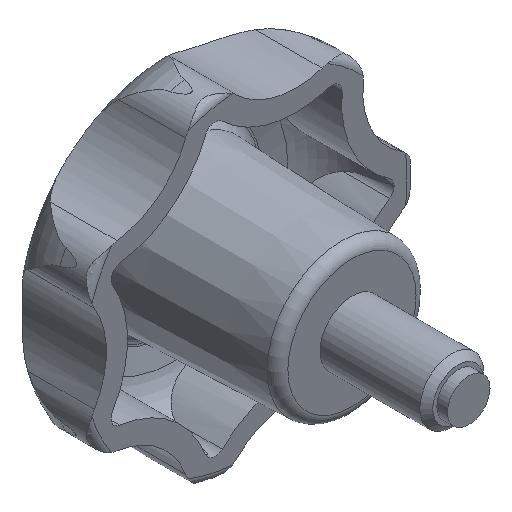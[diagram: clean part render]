
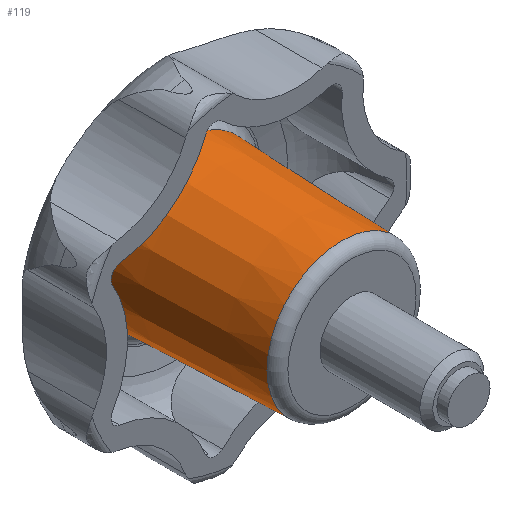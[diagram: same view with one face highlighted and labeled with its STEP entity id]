
A CAD part, isometric view. The second image highlights one B-rep face of the part: STEP entity #119.
In plain terms, the highlighted conical face has half-angle 2 degrees and reference radius 7.567 mm.
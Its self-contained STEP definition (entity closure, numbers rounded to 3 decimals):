
#119 = ADVANCED_FACE( '', ( #234, #235 ), #236, .T. );
#234 = FACE_BOUND( '', #378, .T. );
#235 = FACE_OUTER_BOUND( '', #379, .T. );
#236 = CONICAL_SURFACE( '', #380, 7.567, 0.035 );
#378 = EDGE_LOOP( '', ( #887 ) );
#379 = EDGE_LOOP( '', ( #888 ) );
#380 = AXIS2_PLACEMENT_3D( '', #889, #890, #891 );
#887 = ORIENTED_EDGE( '', *, *, #1169, .F. );
#888 = ORIENTED_EDGE( '', *, *, #1170, .T. );
#889 = CARTESIAN_POINT( '', ( 0., 16.25, 0. ) );
#890 = DIRECTION( '', ( 0., 1., 0. ) );
#891 = DIRECTION( '', ( 0., 0., 1. ) );
#1169 = EDGE_CURVE( '', #1460, #1460, #1461, .T. );
#1170 = EDGE_CURVE( '', #1462, #1462, #1463, .T. );
#1460 = VERTEX_POINT( '', #2815 );
#1461 = CIRCLE( '', #2816, 7.034 );
#1462 = VERTEX_POINT( '', #2817 );
#1463 = CIRCLE( '', #2818, 7.567 );
#2815 = CARTESIAN_POINT( '', ( 0., 0.965, -7.034 ) );
#2816 = AXIS2_PLACEMENT_3D( '', #3040, #3041, #3042 );
#2817 = CARTESIAN_POINT( '', ( 0., 16.25, -7.567 ) );
#2818 = AXIS2_PLACEMENT_3D( '', #3043, #3044, #3045 );
#3040 = CARTESIAN_POINT( '', ( 0., 0.965, 0. ) );
#3041 = DIRECTION( '', ( 0., -1., 0. ) );
#3042 = DIRECTION( '', ( 0., 0., -1. ) );
#3043 = CARTESIAN_POINT( '', ( 0., 16.25, 0. ) );
#3044 = DIRECTION( '', ( 0., -1., 0. ) );
#3045 = DIRECTION( '', ( 0., 0., -1. ) );
